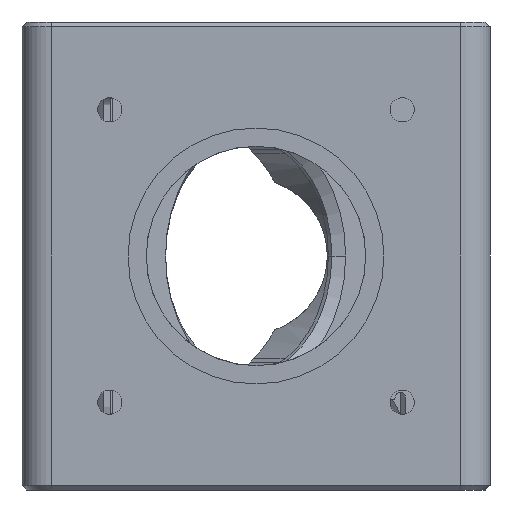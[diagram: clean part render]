
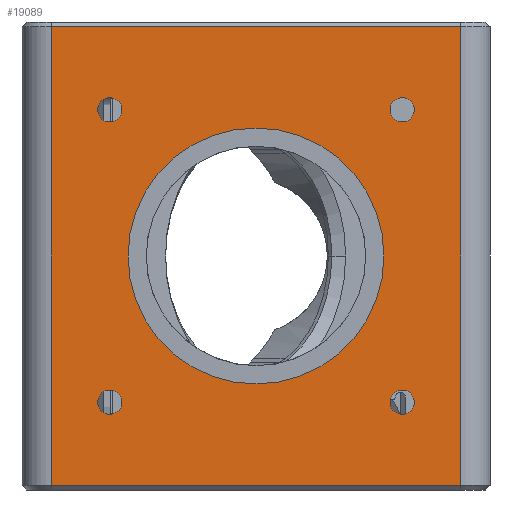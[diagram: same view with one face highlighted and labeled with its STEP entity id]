
A CAD part, front view. The second image highlights one B-rep face of the part: STEP entity #19089.
In plain terms, the highlighted planar face has unit normal (0, -1, 0).
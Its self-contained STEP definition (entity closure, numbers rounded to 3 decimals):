
#399 = DIRECTION ( 'NONE',  ( 0., 0., -1. ) ) ;
#423 = CARTESIAN_POINT ( 'NONE',  ( 13.032, -22.135, 72.3 ) ) ;
#572 = DIRECTION ( 'NONE',  ( 0., 0., -1. ) ) ;
#744 = DIRECTION ( 'NONE',  ( 0., 0., -1. ) ) ;
#749 = CARTESIAN_POINT ( 'NONE',  ( -7.968, -22.135, 48.3 ) ) ;
#979 = VERTEX_POINT ( 'NONE', #5768 ) ;
#1040 = ORIENTED_EDGE ( 'NONE', *, *, #1514, .F. ) ;
#1431 = ORIENTED_EDGE ( 'NONE', *, *, #11884, .F. ) ;
#1513 = EDGE_LOOP ( 'NONE', ( #2379, #1431 ) ) ;
#1514 = EDGE_CURVE ( 'NONE', #14883, #9338, #2658, .T. ) ;
#1554 = AXIS2_PLACEMENT_3D ( 'NONE', #19695, #10555, #13364 ) ;
#1817 = VERTEX_POINT ( 'NONE', #10002 ) ;
#1867 = FACE_OUTER_BOUND ( 'NONE', #16375, .T. ) ;
#2017 = DIRECTION ( 'NONE',  ( 0., -1., 0. ) ) ;
#2148 = EDGE_CURVE ( 'NONE', #1817, #18515, #16983, .T. ) ;
#2330 = LINE ( 'NONE', #7490, #4971 ) ;
#2379 = ORIENTED_EDGE ( 'NONE', *, *, #13390, .F. ) ;
#2658 = CIRCLE ( 'NONE', #7186, 1.25 ) ;
#2673 = EDGE_CURVE ( 'NONE', #11255, #9943, #10271, .T. ) ;
#2931 = ORIENTED_EDGE ( 'NONE', *, *, #17290, .F. ) ;
#2964 = DIRECTION ( 'NONE',  ( 0., -1., 0. ) ) ;
#3307 = FACE_BOUND ( 'NONE', #17180, .T. ) ;
#3338 = CARTESIAN_POINT ( 'NONE',  ( -7.968, -22.135, 48.3 ) ) ;
#3405 = AXIS2_PLACEMENT_3D ( 'NONE', #6179, #15660, #7839 ) ;
#3430 = EDGE_LOOP ( 'NONE', ( #1040, #13887 ) ) ;
#3445 = CIRCLE ( 'NONE', #14417, 13.125 ) ;
#3568 = CARTESIAN_POINT ( 'NONE',  ( -22.968, -22.135, 62.05 ) ) ;
#3618 = CIRCLE ( 'NONE', #14468, 1.25 ) ;
#4359 = CARTESIAN_POINT ( 'NONE',  ( 13.032, -22.135, 24.8 ) ) ;
#4400 = EDGE_CURVE ( 'NONE', #9943, #11255, #4675, .T. ) ;
#4411 = CARTESIAN_POINT ( 'NONE',  ( -22.968, -22.135, 32.05 ) ) ;
#4640 = DIRECTION ( 'NONE',  ( 0., 0., -1. ) ) ;
#4675 = CIRCLE ( 'NONE', #18255, 1.25 ) ;
#4971 = VECTOR ( 'NONE', #10684, 1000. ) ;
#5202 = CARTESIAN_POINT ( 'NONE',  ( 7.032, -22.135, 33.3 ) ) ;
#5595 = VERTEX_POINT ( 'NONE', #15963 ) ;
#5749 = VERTEX_POINT ( 'NONE', #17572 ) ;
#5768 = CARTESIAN_POINT ( 'NONE',  ( 7.032, -22.135, 32.05 ) ) ;
#5857 = CARTESIAN_POINT ( 'NONE',  ( -22.968, -22.135, 33.3 ) ) ;
#6179 = CARTESIAN_POINT ( 'NONE',  ( -22.968, -22.135, 63.3 ) ) ;
#6235 = DIRECTION ( 'NONE',  ( 0., 0., -1. ) ) ;
#6474 = CARTESIAN_POINT ( 'NONE',  ( -31.968, -22.135, 72.3 ) ) ;
#6499 = EDGE_CURVE ( 'NONE', #18770, #14962, #12508, .T. ) ;
#7078 = CARTESIAN_POINT ( 'NONE',  ( -28.968, -22.135, 71.8 ) ) ;
#7176 = ORIENTED_EDGE ( 'NONE', *, *, #11549, .F. ) ;
#7186 = AXIS2_PLACEMENT_3D ( 'NONE', #5857, #2964, #9029 ) ;
#7218 = CARTESIAN_POINT ( 'NONE',  ( 7.032, -22.135, 62.05 ) ) ;
#7399 = VERTEX_POINT ( 'NONE', #7078 ) ;
#7415 = CARTESIAN_POINT ( 'NONE',  ( 7.032, -22.135, 63.3 ) ) ;
#7490 = CARTESIAN_POINT ( 'NONE',  ( -28.968, -22.135, 71.8 ) ) ;
#7702 = LINE ( 'NONE', #10769, #18453 ) ;
#7839 = DIRECTION ( 'NONE',  ( 0., 0., -1. ) ) ;
#7854 = DIRECTION ( 'NONE',  ( 0., 0., 1. ) ) ;
#7883 = CARTESIAN_POINT ( 'NONE',  ( -31.968, -22.135, 24.8 ) ) ;
#7932 = AXIS2_PLACEMENT_3D ( 'NONE', #5202, #11380, #12928 ) ;
#8218 = EDGE_CURVE ( 'NONE', #7399, #14587, #7702, .T. ) ;
#8372 = CIRCLE ( 'NONE', #1554, 1.25 ) ;
#8640 = CARTESIAN_POINT ( 'NONE',  ( -22.968, -22.135, 34.55 ) ) ;
#8743 = ORIENTED_EDGE ( 'NONE', *, *, #2673, .F. ) ;
#8973 = EDGE_CURVE ( 'NONE', #979, #17263, #16999, .T. ) ;
#9029 = DIRECTION ( 'NONE',  ( 0., 0., -1. ) ) ;
#9036 = CARTESIAN_POINT ( 'NONE',  ( 7.032, -22.135, 34.55 ) ) ;
#9125 = CARTESIAN_POINT ( 'NONE',  ( 13.032, -22.135, 71.8 ) ) ;
#9338 = VERTEX_POINT ( 'NONE', #8640 ) ;
#9467 = EDGE_CURVE ( 'NONE', #9338, #14883, #3618, .T. ) ;
#9496 = AXIS2_PLACEMENT_3D ( 'NONE', #9915, #17590, #572 ) ;
#9915 = CARTESIAN_POINT ( 'NONE',  ( -22.968, -22.135, 63.3 ) ) ;
#9943 = VERTEX_POINT ( 'NONE', #11420 ) ;
#10002 = CARTESIAN_POINT ( 'NONE',  ( -22.968, -22.135, 64.55 ) ) ;
#10271 = CIRCLE ( 'NONE', #11157, 1.25 ) ;
#10323 = ORIENTED_EDGE ( 'NONE', *, *, #2148, .F. ) ;
#10555 = DIRECTION ( 'NONE',  ( 0., -1., 0. ) ) ;
#10574 = ORIENTED_EDGE ( 'NONE', *, *, #8973, .F. ) ;
#10684 = DIRECTION ( 'NONE',  ( -1., 0., 0. ) ) ;
#10769 = CARTESIAN_POINT ( 'NONE',  ( -28.968, -22.135, 72.3 ) ) ;
#10994 = ORIENTED_EDGE ( 'NONE', *, *, #19807, .T. ) ;
#11157 = AXIS2_PLACEMENT_3D ( 'NONE', #7415, #16643, #18168 ) ;
#11255 = VERTEX_POINT ( 'NONE', #7218 ) ;
#11380 = DIRECTION ( 'NONE',  ( 0., -1., 0. ) ) ;
#11420 = CARTESIAN_POINT ( 'NONE',  ( 7.032, -22.135, 64.55 ) ) ;
#11549 = EDGE_CURVE ( 'NONE', #17263, #979, #8372, .T. ) ;
#11615 = AXIS2_PLACEMENT_3D ( 'NONE', #6474, #18686, #7854 ) ;
#11884 = EDGE_CURVE ( 'NONE', #5749, #5595, #18647, .T. ) ;
#12243 = DIRECTION ( 'NONE',  ( 0., -1., 0. ) ) ;
#12418 = ORIENTED_EDGE ( 'NONE', *, *, #4400, .F. ) ;
#12424 = LINE ( 'NONE', #7883, #17451 ) ;
#12508 = LINE ( 'NONE', #423, #17045 ) ;
#12928 = DIRECTION ( 'NONE',  ( 0., 0., -1. ) ) ;
#12972 = DIRECTION ( 'NONE',  ( 0., -1., 0. ) ) ;
#13364 = DIRECTION ( 'NONE',  ( 0., 0., -1. ) ) ;
#13390 = EDGE_CURVE ( 'NONE', #5595, #5749, #3445, .T. ) ;
#13556 = ORIENTED_EDGE ( 'NONE', *, *, #8218, .T. ) ;
#13866 = EDGE_LOOP ( 'NONE', ( #2931, #10323 ) ) ;
#13887 = ORIENTED_EDGE ( 'NONE', *, *, #9467, .F. ) ;
#14018 = PLANE ( 'NONE',  #11615 ) ;
#14296 = FACE_BOUND ( 'NONE', #3430, .T. ) ;
#14305 = DIRECTION ( 'NONE',  ( 1., 0., 0. ) ) ;
#14332 = CIRCLE ( 'NONE', #3405, 1.25 ) ;
#14417 = AXIS2_PLACEMENT_3D ( 'NONE', #749, #2017, #17376 ) ;
#14468 = AXIS2_PLACEMENT_3D ( 'NONE', #18364, #12243, #4640 ) ;
#14474 = ORIENTED_EDGE ( 'NONE', *, *, #6499, .T. ) ;
#14587 = VERTEX_POINT ( 'NONE', #17948 ) ;
#14883 = VERTEX_POINT ( 'NONE', #4411 ) ;
#14962 = VERTEX_POINT ( 'NONE', #9125 ) ;
#15660 = DIRECTION ( 'NONE',  ( 0., -1., 0. ) ) ;
#15963 = CARTESIAN_POINT ( 'NONE',  ( -7.968, -22.135, 35.175 ) ) ;
#16031 = CARTESIAN_POINT ( 'NONE',  ( 7.032, -22.135, 63.3 ) ) ;
#16375 = EDGE_LOOP ( 'NONE', ( #14474, #10994, #13556, #18124 ) ) ;
#16526 = EDGE_CURVE ( 'NONE', #14587, #18770, #12424, .T. ) ;
#16643 = DIRECTION ( 'NONE',  ( 0., -1., 0. ) ) ;
#16983 = CIRCLE ( 'NONE', #9496, 1.25 ) ;
#16999 = CIRCLE ( 'NONE', #7932, 1.25 ) ;
#17045 = VECTOR ( 'NONE', #17188, 1000. ) ;
#17180 = EDGE_LOOP ( 'NONE', ( #8743, #12418 ) ) ;
#17188 = DIRECTION ( 'NONE',  ( 0., 0., 1. ) ) ;
#17263 = VERTEX_POINT ( 'NONE', #9036 ) ;
#17290 = EDGE_CURVE ( 'NONE', #18515, #1817, #14332, .T. ) ;
#17376 = DIRECTION ( 'NONE',  ( 0., 0., -1. ) ) ;
#17451 = VECTOR ( 'NONE', #14305, 1000. ) ;
#17530 = EDGE_LOOP ( 'NONE', ( #10574, #7176 ) ) ;
#17572 = CARTESIAN_POINT ( 'NONE',  ( -7.968, -22.135, 61.425 ) ) ;
#17590 = DIRECTION ( 'NONE',  ( 0., -1., 0. ) ) ;
#17639 = FACE_BOUND ( 'NONE', #13866, .T. ) ;
#17859 = FACE_BOUND ( 'NONE', #1513, .T. ) ;
#17923 = AXIS2_PLACEMENT_3D ( 'NONE', #3338, #18698, #399 ) ;
#17948 = CARTESIAN_POINT ( 'NONE',  ( -28.968, -22.135, 24.8 ) ) ;
#18108 = FACE_BOUND ( 'NONE', #17530, .T. ) ;
#18124 = ORIENTED_EDGE ( 'NONE', *, *, #16526, .T. ) ;
#18168 = DIRECTION ( 'NONE',  ( 0., 0., -1. ) ) ;
#18255 = AXIS2_PLACEMENT_3D ( 'NONE', #16031, #12972, #744 ) ;
#18364 = CARTESIAN_POINT ( 'NONE',  ( -22.968, -22.135, 33.3 ) ) ;
#18453 = VECTOR ( 'NONE', #6235, 1000. ) ;
#18515 = VERTEX_POINT ( 'NONE', #3568 ) ;
#18647 = CIRCLE ( 'NONE', #17923, 13.125 ) ;
#18686 = DIRECTION ( 'NONE',  ( 0., 1., 0. ) ) ;
#18698 = DIRECTION ( 'NONE',  ( 0., -1., 0. ) ) ;
#18770 = VERTEX_POINT ( 'NONE', #4359 ) ;
#19089 = ADVANCED_FACE ( 'NONE', ( #18108, #3307, #17639, #14296, #17859, #1867 ), #14018, .F. ) ;
#19695 = CARTESIAN_POINT ( 'NONE',  ( 7.032, -22.135, 33.3 ) ) ;
#19807 = EDGE_CURVE ( 'NONE', #14962, #7399, #2330, .T. ) ;
